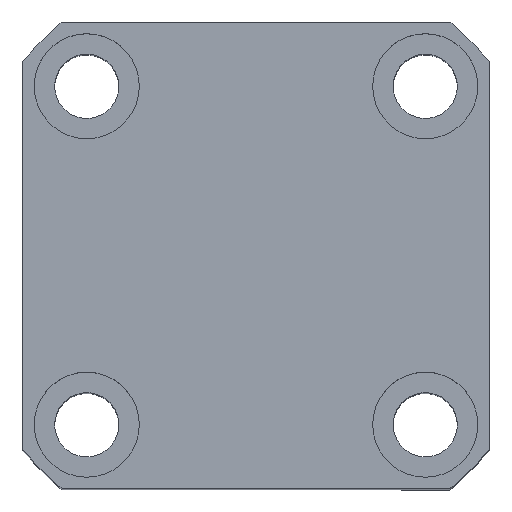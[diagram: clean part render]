
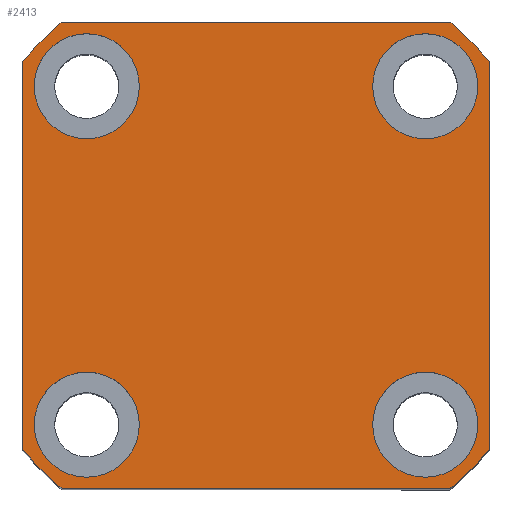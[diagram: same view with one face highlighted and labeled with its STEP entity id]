
A CAD part, top view. The second image highlights one B-rep face of the part: STEP entity #2413.
In plain terms, the highlighted planar face has unit normal (0, 0, 1).
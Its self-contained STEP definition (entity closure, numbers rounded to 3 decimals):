
#45 = ORIENTED_EDGE ( 'NONE', *, *, #7585, .F. ) ;
#67 = VERTEX_POINT ( 'NONE', #10263 ) ;
#101 = DIRECTION ( 'NONE',  ( 1., 0., 0. ) ) ;
#304 = VERTEX_POINT ( 'NONE', #5509 ) ;
#331 = DIRECTION ( 'NONE',  ( 0., -1., 0. ) ) ;
#335 = ORIENTED_EDGE ( 'NONE', *, *, #4481, .F. ) ;
#364 = LINE ( 'NONE', #402, #9010 ) ;
#402 = CARTESIAN_POINT ( 'NONE',  ( -40., 33.226, 55. ) ) ;
#501 = DIRECTION ( 'NONE',  ( 1., 0., 0. ) ) ;
#540 = LINE ( 'NONE', #7856, #8124 ) ;
#582 = DIRECTION ( 'NONE',  ( 1., 0., 0. ) ) ;
#650 = DIRECTION ( 'NONE',  ( 1., 0., 0. ) ) ;
#742 = CARTESIAN_POINT ( 'NONE',  ( 29., -29., 55. ) ) ;
#743 = CARTESIAN_POINT ( 'NONE',  ( 20., -29., 55. ) ) ;
#776 = DIRECTION ( 'NONE',  ( 1., 0., 0. ) ) ;
#792 = EDGE_CURVE ( 'NONE', #10185, #9263, #5263, .T. ) ;
#795 = CIRCLE ( 'NONE', #9879, 52. ) ;
#913 = CIRCLE ( 'NONE', #4218, 9. ) ;
#961 = CARTESIAN_POINT ( 'NONE',  ( 33.226, 40., 55. ) ) ;
#1089 = EDGE_CURVE ( 'NONE', #4253, #5353, #6681, .T. ) ;
#1126 = DIRECTION ( 'NONE',  ( 0., 0., 1. ) ) ;
#1228 = EDGE_CURVE ( 'NONE', #9771, #7000, #913, .T. ) ;
#1259 = VERTEX_POINT ( 'NONE', #2855 ) ;
#1287 = CIRCLE ( 'NONE', #2957, 9. ) ;
#1351 = EDGE_LOOP ( 'NONE', ( #5736, #3086 ) ) ;
#1525 = ORIENTED_EDGE ( 'NONE', *, *, #7859, .F. ) ;
#1527 = VERTEX_POINT ( 'NONE', #4021 ) ;
#1531 = DIRECTION ( 'NONE',  ( 0., 0., 1. ) ) ;
#1609 = CARTESIAN_POINT ( 'NONE',  ( 40., 33.226, 55. ) ) ;
#1691 = CIRCLE ( 'NONE', #8482, 52. ) ;
#1819 = CIRCLE ( 'NONE', #9407, 9. ) ;
#1820 = DIRECTION ( 'NONE',  ( 1., 0., 0. ) ) ;
#2084 = EDGE_CURVE ( 'NONE', #4955, #304, #4879, .T. ) ;
#2113 = AXIS2_PLACEMENT_3D ( 'NONE', #742, #1531, #776 ) ;
#2190 = AXIS2_PLACEMENT_3D ( 'NONE', #5933, #3320, #10034 ) ;
#2240 = LINE ( 'NONE', #1609, #10480 ) ;
#2374 = EDGE_CURVE ( 'NONE', #5353, #2811, #540, .T. ) ;
#2413 = ADVANCED_FACE ( 'NONE', ( #10623, #4619, #5264, #8382, #6171 ), #3443, .T. ) ;
#2430 = VERTEX_POINT ( 'NONE', #4403 ) ;
#2530 = CARTESIAN_POINT ( 'NONE',  ( 33.226, -40., 55. ) ) ;
#2612 = AXIS2_PLACEMENT_3D ( 'NONE', #10165, #5155, #1820 ) ;
#2720 = EDGE_CURVE ( 'NONE', #2430, #1259, #10111, .T. ) ;
#2811 = VERTEX_POINT ( 'NONE', #2530 ) ;
#2855 = CARTESIAN_POINT ( 'NONE',  ( -40., 33.226, 55. ) ) ;
#2952 = ORIENTED_EDGE ( 'NONE', *, *, #10077, .T. ) ;
#2957 = AXIS2_PLACEMENT_3D ( 'NONE', #10677, #5685, #650 ) ;
#2961 = VERTEX_POINT ( 'NONE', #961 ) ;
#3007 = DIRECTION ( 'NONE',  ( 0., 0., 1. ) ) ;
#3038 = CARTESIAN_POINT ( 'NONE',  ( -29., -29., 55. ) ) ;
#3052 = EDGE_LOOP ( 'NONE', ( #335, #6060 ) ) ;
#3086 = ORIENTED_EDGE ( 'NONE', *, *, #1228, .F. ) ;
#3175 = AXIS2_PLACEMENT_3D ( 'NONE', #3038, #3007, #501 ) ;
#3320 = DIRECTION ( 'NONE',  ( 0., 0., 1. ) ) ;
#3443 = PLANE ( 'NONE',  #9751 ) ;
#3571 = CARTESIAN_POINT ( 'NONE',  ( 29., -29., 55. ) ) ;
#3720 = DIRECTION ( 'NONE',  ( 1., 0., 0. ) ) ;
#3972 = EDGE_CURVE ( 'NONE', #8573, #1527, #2240, .T. ) ;
#4021 = CARTESIAN_POINT ( 'NONE',  ( 40., 33.226, 55. ) ) ;
#4069 = CARTESIAN_POINT ( 'NONE',  ( 0., 0., 55. ) ) ;
#4218 = AXIS2_PLACEMENT_3D ( 'NONE', #9578, #10313, #6206 ) ;
#4253 = VERTEX_POINT ( 'NONE', #6585 ) ;
#4289 = ORIENTED_EDGE ( 'NONE', *, *, #2374, .T. ) ;
#4334 = CARTESIAN_POINT ( 'NONE',  ( 38., 29., 55. ) ) ;
#4403 = CARTESIAN_POINT ( 'NONE',  ( -33.226, 40., 55. ) ) ;
#4439 = EDGE_LOOP ( 'NONE', ( #9800, #2952, #8986, #4289, #9069, #5454, #6983, #9089 ) ) ;
#4481 = EDGE_CURVE ( 'NONE', #304, #4955, #10468, .T. ) ;
#4619 = FACE_BOUND ( 'NONE', #5049, .T. ) ;
#4879 = CIRCLE ( 'NONE', #2113, 9. ) ;
#4955 = VERTEX_POINT ( 'NONE', #743 ) ;
#5049 = EDGE_LOOP ( 'NONE', ( #9898, #10630 ) ) ;
#5122 = CARTESIAN_POINT ( 'NONE',  ( -29., 29., 55. ) ) ;
#5155 = DIRECTION ( 'NONE',  ( 0., 0., 1. ) ) ;
#5168 = CARTESIAN_POINT ( 'NONE',  ( 0., 0., 55. ) ) ;
#5263 = CIRCLE ( 'NONE', #2190, 9. ) ;
#5264 = FACE_BOUND ( 'NONE', #7769, .T. ) ;
#5299 = EDGE_CURVE ( 'NONE', #2961, #2430, #10000, .T. ) ;
#5353 = VERTEX_POINT ( 'NONE', #8792 ) ;
#5407 = AXIS2_PLACEMENT_3D ( 'NONE', #5122, #7571, #7647 ) ;
#5454 = ORIENTED_EDGE ( 'NONE', *, *, #3972, .T. ) ;
#5509 = CARTESIAN_POINT ( 'NONE',  ( 38., -29., 55. ) ) ;
#5565 = DIRECTION ( 'NONE',  ( 0., 0., 1. ) ) ;
#5685 = DIRECTION ( 'NONE',  ( 0., 0., 1. ) ) ;
#5736 = ORIENTED_EDGE ( 'NONE', *, *, #9289, .F. ) ;
#5834 = CARTESIAN_POINT ( 'NONE',  ( 29., 29., 55. ) ) ;
#5933 = CARTESIAN_POINT ( 'NONE',  ( -29., -29., 55. ) ) ;
#6059 = DIRECTION ( 'NONE',  ( 1., 0., 0. ) ) ;
#6060 = ORIENTED_EDGE ( 'NONE', *, *, #2084, .F. ) ;
#6171 = FACE_OUTER_BOUND ( 'NONE', #4439, .T. ) ;
#6206 = DIRECTION ( 'NONE',  ( 1., 0., 0. ) ) ;
#6461 = DIRECTION ( 'NONE',  ( 1., 0., 0. ) ) ;
#6463 = DIRECTION ( 'NONE',  ( 0., 1., 0. ) ) ;
#6476 = CARTESIAN_POINT ( 'NONE',  ( -20., -29., 55. ) ) ;
#6585 = CARTESIAN_POINT ( 'NONE',  ( -40., -33.226, 55. ) ) ;
#6629 = EDGE_CURVE ( 'NONE', #1527, #2961, #1691, .T. ) ;
#6681 = CIRCLE ( 'NONE', #2612, 52. ) ;
#6983 = ORIENTED_EDGE ( 'NONE', *, *, #6629, .T. ) ;
#7000 = VERTEX_POINT ( 'NONE', #4334 ) ;
#7043 = CARTESIAN_POINT ( 'NONE',  ( -33.226, 40., 55. ) ) ;
#7215 = CARTESIAN_POINT ( 'NONE',  ( 0., 0., 55. ) ) ;
#7479 = DIRECTION ( 'NONE',  ( 0., 0., 1. ) ) ;
#7571 = DIRECTION ( 'NONE',  ( 0., 0., 1. ) ) ;
#7585 = EDGE_CURVE ( 'NONE', #7635, #67, #1287, .T. ) ;
#7635 = VERTEX_POINT ( 'NONE', #8354 ) ;
#7647 = DIRECTION ( 'NONE',  ( 1., 0., 0. ) ) ;
#7753 = CARTESIAN_POINT ( 'NONE',  ( 40., -33.226, 55. ) ) ;
#7769 = EDGE_LOOP ( 'NONE', ( #45, #1525 ) ) ;
#7856 = CARTESIAN_POINT ( 'NONE',  ( -33.226, -40., 55. ) ) ;
#7859 = EDGE_CURVE ( 'NONE', #67, #7635, #8761, .T. ) ;
#7880 = CARTESIAN_POINT ( 'NONE',  ( 0., 0., 55. ) ) ;
#7894 = DIRECTION ( 'NONE',  ( -1., 0., 0. ) ) ;
#8107 = DIRECTION ( 'NONE',  ( 0., 0., 1. ) ) ;
#8124 = VECTOR ( 'NONE', #3720, 1000. ) ;
#8354 = CARTESIAN_POINT ( 'NONE',  ( -20., 29., 55. ) ) ;
#8382 = FACE_BOUND ( 'NONE', #1351, .T. ) ;
#8482 = AXIS2_PLACEMENT_3D ( 'NONE', #7215, #5565, #582 ) ;
#8573 = VERTEX_POINT ( 'NONE', #7753 ) ;
#8704 = CARTESIAN_POINT ( 'NONE',  ( -38., -29., 55. ) ) ;
#8761 = CIRCLE ( 'NONE', #5407, 9. ) ;
#8778 = CARTESIAN_POINT ( 'NONE',  ( 20., 29., 55. ) ) ;
#8792 = CARTESIAN_POINT ( 'NONE',  ( -33.226, -40., 55. ) ) ;
#8817 = VECTOR ( 'NONE', #7894, 1000. ) ;
#8986 = ORIENTED_EDGE ( 'NONE', *, *, #1089, .T. ) ;
#9010 = VECTOR ( 'NONE', #331, 1000. ) ;
#9069 = ORIENTED_EDGE ( 'NONE', *, *, #10829, .T. ) ;
#9089 = ORIENTED_EDGE ( 'NONE', *, *, #5299, .T. ) ;
#9188 = DIRECTION ( 'NONE',  ( 1., 0., 0. ) ) ;
#9190 = CIRCLE ( 'NONE', #3175, 9. ) ;
#9263 = VERTEX_POINT ( 'NONE', #6476 ) ;
#9289 = EDGE_CURVE ( 'NONE', #7000, #9771, #1819, .T. ) ;
#9327 = AXIS2_PLACEMENT_3D ( 'NONE', #4069, #8107, #6461 ) ;
#9407 = AXIS2_PLACEMENT_3D ( 'NONE', #5834, #7479, #9188 ) ;
#9439 = DIRECTION ( 'NONE',  ( 0., 0., 1. ) ) ;
#9578 = CARTESIAN_POINT ( 'NONE',  ( 29., 29., 55. ) ) ;
#9751 = AXIS2_PLACEMENT_3D ( 'NONE', #5168, #9439, #101 ) ;
#9771 = VERTEX_POINT ( 'NONE', #8778 ) ;
#9800 = ORIENTED_EDGE ( 'NONE', *, *, #2720, .T. ) ;
#9879 = AXIS2_PLACEMENT_3D ( 'NONE', #7880, #1126, #10323 ) ;
#9898 = ORIENTED_EDGE ( 'NONE', *, *, #10284, .F. ) ;
#10000 = LINE ( 'NONE', #7043, #8817 ) ;
#10034 = DIRECTION ( 'NONE',  ( 1., 0., 0. ) ) ;
#10077 = EDGE_CURVE ( 'NONE', #1259, #4253, #364, .T. ) ;
#10111 = CIRCLE ( 'NONE', #9327, 52. ) ;
#10157 = DIRECTION ( 'NONE',  ( 0., 0., 1. ) ) ;
#10165 = CARTESIAN_POINT ( 'NONE',  ( 0., 0., 55. ) ) ;
#10185 = VERTEX_POINT ( 'NONE', #8704 ) ;
#10263 = CARTESIAN_POINT ( 'NONE',  ( -38., 29., 55. ) ) ;
#10284 = EDGE_CURVE ( 'NONE', #9263, #10185, #9190, .T. ) ;
#10313 = DIRECTION ( 'NONE',  ( 0., 0., 1. ) ) ;
#10323 = DIRECTION ( 'NONE',  ( 1., 0., 0. ) ) ;
#10468 = CIRCLE ( 'NONE', #10675, 9. ) ;
#10480 = VECTOR ( 'NONE', #6463, 1000. ) ;
#10623 = FACE_BOUND ( 'NONE', #3052, .T. ) ;
#10630 = ORIENTED_EDGE ( 'NONE', *, *, #792, .F. ) ;
#10675 = AXIS2_PLACEMENT_3D ( 'NONE', #3571, #10157, #6059 ) ;
#10677 = CARTESIAN_POINT ( 'NONE',  ( -29., 29., 55. ) ) ;
#10829 = EDGE_CURVE ( 'NONE', #2811, #8573, #795, .T. ) ;
